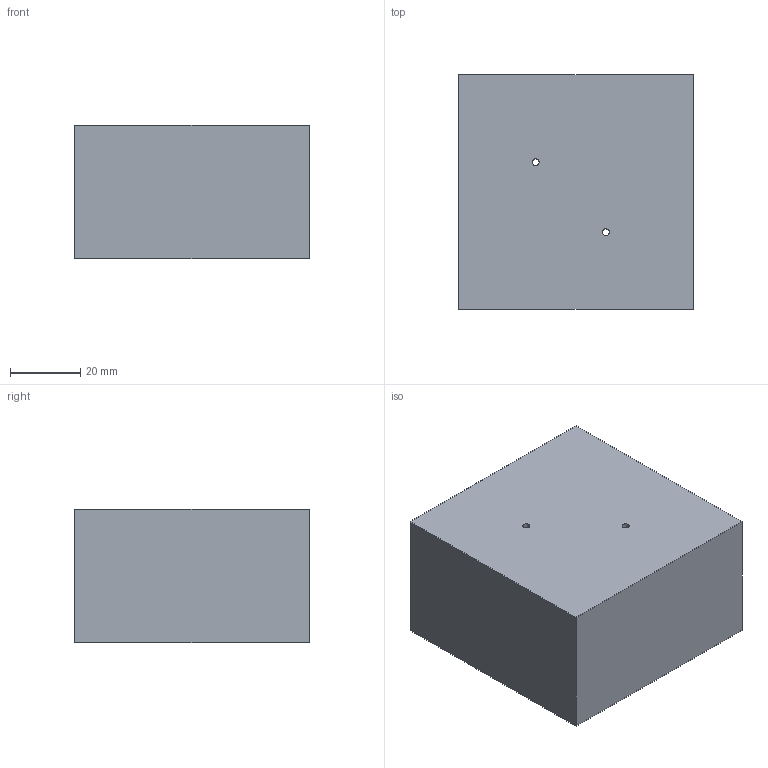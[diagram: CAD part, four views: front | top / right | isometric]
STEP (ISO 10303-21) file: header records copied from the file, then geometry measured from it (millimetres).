
FILE_DESCRIPTION (( 'STEP AP203' ), '1' );
FILE_NAME ('FT150ES06.STEP', '2026-06-26T01:17:50', ( 'USER' ), ( '' ), 'SwSTEP 2.0', 'SolidWorks 2023', '' );
FILE_SCHEMA (( 'CONFIG_CONTROL_DESIGN' ));
Length unit declared in the file: millimetre
Products named in the file (1): FT150ES06
Bounding box: 67 x 67 x 38 mm (x, y, z)
Volume: 159489.2 mm3; surface area: 22350.6 mm2
Topology: 1 solids, 1 shells, 40 faces, 95 edges, 55 vertices
Faces by surface type: cylinder 22, plane 10, cone 8
Entity records: 1338 total; most frequent: CARTESIAN_POINT 344, DIRECTION 192, ORIENTED_EDGE 190, EDGE_CURVE 95, AXIS2_PLACEMENT_3D 75, VERTEX_POINT 55, EDGE_LOOP 48, VECTOR 42
